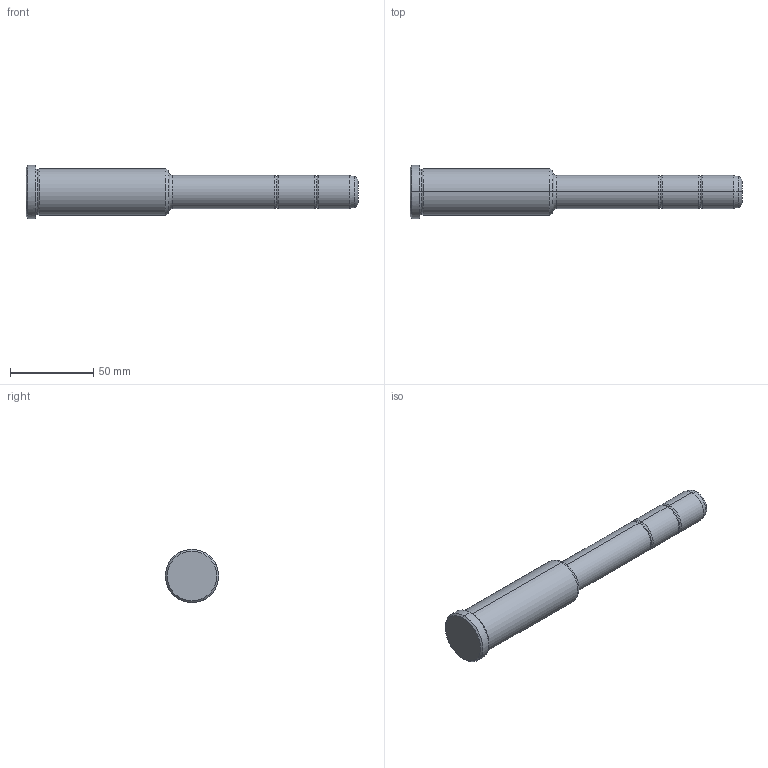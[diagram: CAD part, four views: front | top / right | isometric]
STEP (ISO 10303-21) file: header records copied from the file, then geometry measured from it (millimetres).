
FILE_DESCRIPTION(('CATIA V5 STEP Exchange'),'2;1');
FILE_NAME('C:\Users\Utente\Desktop\IO LAVORO\3D X SITO CF\X SITO\PLASTICA\351\351-20X86X200.stp','2021-08-27T13:04:55+00:00',('none'),('none'),'CATIA Version 5 Release 20 GA (IN-10)','CATIA V5 STEP AP203','none');
FILE_SCHEMA(('CONFIG_CONTROL_DESIGN'));
Length unit declared in the file: millimetre
Products named in the file (1): 351-20X86X200
Bounding box: 200 x 32 x 32 mm (x, y, z)
Volume: 89407.6 mm3; surface area: 16145.8 mm2
Topology: 1 solids, 1 shells, 36 faces, 102 edges, 70 vertices
Faces by surface type: torus 16, cylinder 10, cone 6, plane 4
Entity records: 1292 total; most frequent: CARTESIAN_POINT 321, ORIENTED_EDGE 204, DIRECTION 166, AXIS2_PLACEMENT_3D 115, EDGE_CURVE 102, CIRCLE 78, VERTEX_POINT 70, EDGE_LOOP 38
